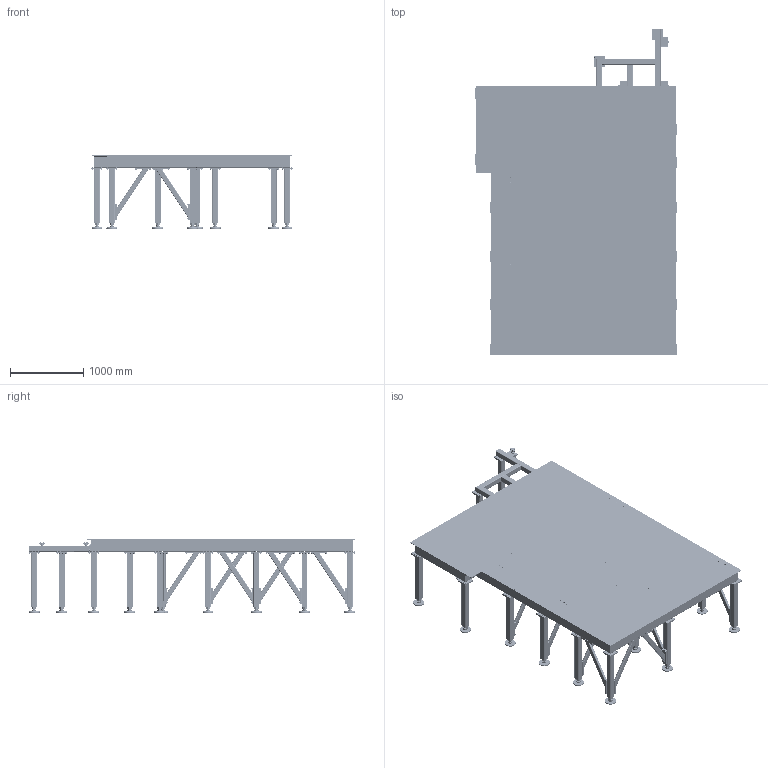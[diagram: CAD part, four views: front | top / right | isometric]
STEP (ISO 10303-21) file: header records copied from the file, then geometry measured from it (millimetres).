
FILE_DESCRIPTION (( 'STEP AP214' ), '1' );
FILE_NAME ('TECPOL17-FAU-01 3D MODEL.STEP', '2024-11-03T18:28:32', ( '' ), ( '' ), 'SwSTEP 2.0', 'SolidWorks 2017', '' );
FILE_SCHEMA (( 'AUTOMOTIVE_DESIGN' ));
Length unit declared in the file: millimetre
Products named in the file (27): TEPCOL17-FAU-06_1<Brut d''usinage>; TEPCOL17-FAU-05_1<Brut d''usinage>; Z-M12 ASSY_160; Z-M10 assy; TEPCOL17-FAU-01; TEPCOL17-FAU-03; Z-M12 ASSY_88; z_Washer_WASHER M 12; Z-ecrou_m36; TEPCOL17-FAU-07_DWG; Z_m36x140; TEPCOL17-FAU-01 Cadre_Default<Brut d''usinage>; TEPCOL17-FAU-05_0<Brut d''usinage>; TEPCOL17-FAU-07; tepcol17 FP tete; Z_Washer-_WASHER M 10; Tige filetée - M12_12_130; Tige filetée - M12_M12x200; TEPCOL17-FAU-04; z_NUT_H_NUT H M 24; z_NUT_H_NUT H M 12; TEPCOL17-FAU-05_2; TECPOL17-FAU-01 3D MODEL; Z_Screw_H_SCREW H M10x30-26; TEPCOL17-FAU-05_2<Brut d''usinage>; TEPCOL17-FAU-05_0; TEPCOL17-FAU-05_1
Assembly tree (315 placements, depth 5):
  TECPOL17-FAU-01 3D MODEL
    TEPCOL17-FAU-01
      TEPCOL17-FAU-04
      TEPCOL17-FAU-03
      TEPCOL17-FAU-01 Cadre_Default<Brut d''usinage>
      Z-M12 ASSY_160  x16
        Tige filetée - M12_M12x200
        z_Washer_WASHER M 12
        z_NUT_H_NUT H M 12
      TEPCOL17-FAU-05_1  x7
        TEPCOL17-FAU-05_2<Brut d''usinage>
        Z-M10 assy
          Z_Screw_H_SCREW H M10x30-26
          Z_Washer-_WASHER M 10
        TEPCOL17-FAU-06_1<Brut d''usinage>
        TEPCOL17-FAU-07_DWG
          Z_m36x140
          Z-ecrou_m36
          TEPCOL17-FAU-07
      TEPCOL17-FAU-05_0  x9
        TEPCOL17-FAU-05_0<Brut d''usinage>
        TEPCOL17-FAU-07_DWG
          Z_m36x140
          Z-ecrou_m36
          TEPCOL17-FAU-07
      TEPCOL17-FAU-05_2  x5
        TEPCOL17-FAU-05_1<Brut d''usinage>
        Z-M10 assy
          Z_Screw_H_SCREW H M10x30-26
          Z_Washer-_WASHER M 10
        TEPCOL17-FAU-06_1<Brut d''usinage>
        TEPCOL17-FAU-07_DWG
          Z_m36x140
          Z-ecrou_m36
          TEPCOL17-FAU-07
      Z-M12 ASSY_88  x9
        Tige filetée - M12_12_130
        z_Washer_WASHER M 12
        z_NUT_H_NUT H M 12
      z_NUT_H_NUT H M 24  x6
      Z-M10 assy  x208
        Z_Screw_H_SCREW H M10x30-26
        Z_Washer-_WASHER M 10
      tepcol17 FP tete  x3
Bounding box: 2748 x 4467 x 1000 mm (x, y, z)
Volume: 191055809.7 mm3; surface area: 108423472.3 mm2
Topology: 1254 solids, 1254 shells, 17249 faces, 40544 edges, 26137 vertices
Faces by surface type: plane 7482, cylinder 6305, cone 3420, bspline 42
Entity records: 169593 total; most frequent: DIRECTION 28633, CARTESIAN_POINT 28348, ORIENTED_EDGE 25600, EDGE_CURVE 12800, AXIS2_PLACEMENT_3D 10918, VERTEX_POINT 8259, EDGE_LOOP 6873, LINE 6797
